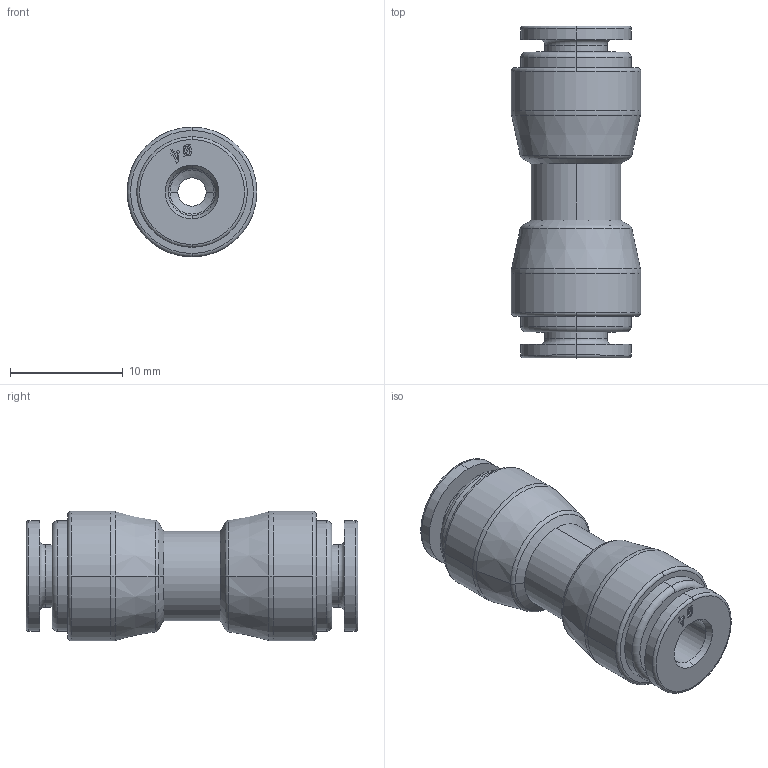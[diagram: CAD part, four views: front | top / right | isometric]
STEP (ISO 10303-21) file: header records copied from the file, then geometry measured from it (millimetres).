
FILE_DESCRIPTION (( 'STEP AP214' ), '1' );
FILE_NAME ('5304000002A.STEP', '2023-03-06T10:31:17', ( '' ), ( '' ), 'SwSTEP 2.0', 'SolidWorks 2020', '' );
FILE_SCHEMA (( 'AUTOMOTIVE_DESIGN' ));
Length unit declared in the file: millimetre
Products named in the file (1): 5304000002A
Bounding box: 11.5 x 29.4 x 11.5 mm (x, y, z)
Volume: 1903 mm3; surface area: 1676.8 mm2
Topology: 1 solids, 1 shells, 158 faces, 380 edges, 240 vertices
Faces by surface type: plane 62, torus 28, bspline 28, cylinder 24, cone 16
Entity records: 7328 total; most frequent: CARTESIAN_POINT 1959, ORIENTED_EDGE 760, DIRECTION 710, EDGE_CURVE 380, AXIS2_PLACEMENT_3D 255, VERTEX_POINT 240, LINE 200, VECTOR 200
